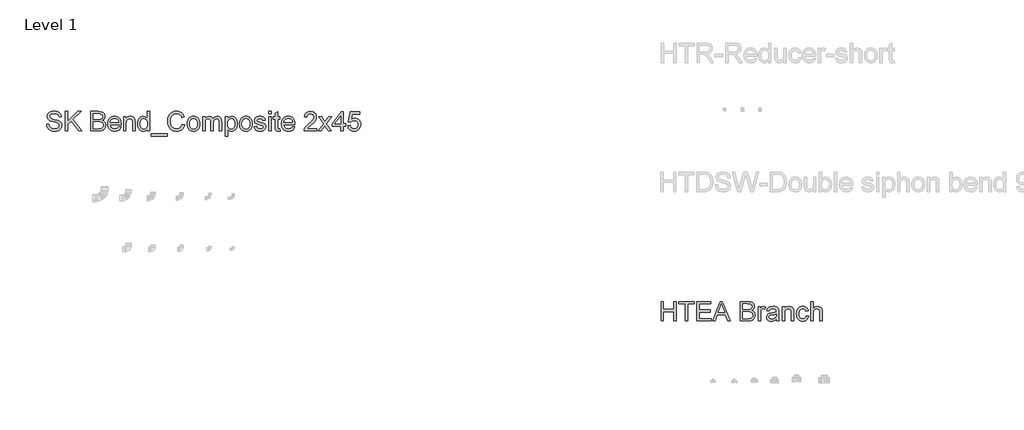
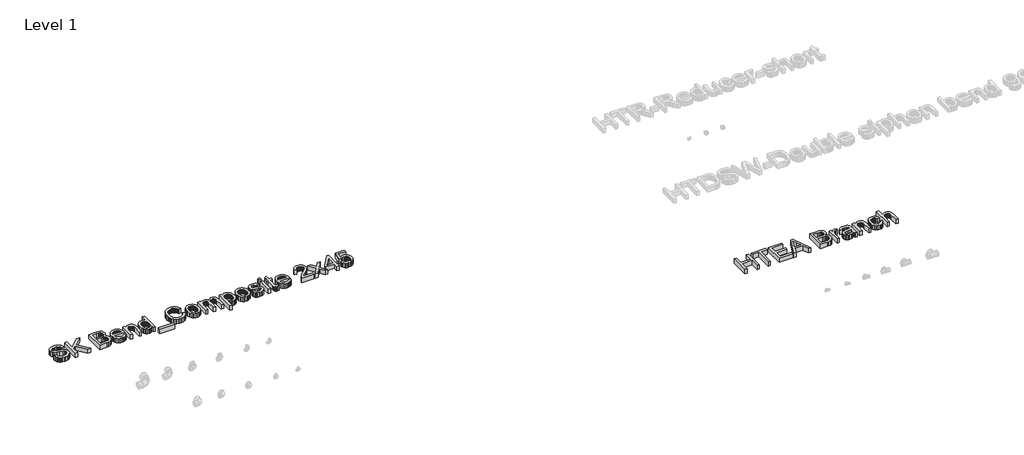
# One storey, part 7 of 29: 2 proxies.
"""IFC4 building model written with IfcOpenShell, lengths in millimetres."""

from ifc_helpers import new_model, si_unit, origin, origin_with_axes, place, context, project, spatial, polyline, outline, extrude, element, save

model = new_model("IFC4")

# Units and contexts
model_context = context("Model", 3, world=origin())
ifc_project = project(units=[si_unit("LENGTHUNIT", "METRE", prefix="MILLI")], contexts=[model_context])

# Site, building, storey
site = spatial("IfcSite", under=ifc_project)
building = spatial("IfcBuilding", under=site)
storey = spatial("IfcBuildingStorey", under=building, Name="Level 1", Elevation=0.0)

# Proxies
placement = place(None, origin())
element("IfcBuildingElementProxy", 1, Name="600mm Arial", ObjectType="600mm Arial", at=placement, inside=storey, context=model_context, shape_type="SweptSolid", body=[
    extrude(outline(polyline([(14791.5843771, -39213.6809145), (14791.5843771, -38610.9430536), (14866.9266098, -38610.9430536), (14866.9266098, -38855.8053096), (15187.1310984, -38855.8053096), (15187.1310984, -38610.9430536), (15262.473331, -38610.9430536), (15262.473331, -39213.6809145), (15187.1310984, -39213.6809145), (15187.1310984, -38931.1475422), (14866.9266098, -38931.1475422), (14866.9266098, -39213.6809145), (14791.5843771, -39213.6809145)])), origin_with_axes(), (0.0, 0.0, 1.0), 150.0),
    extrude(outline(polyline([(15545.0067033, -39213.6809145), (15545.0067033, -38686.2852862), (15347.2333427, -38686.2852862), (15347.2333427, -38610.9430536), (15818.1222965, -38610.9430536), (15818.1222965, -38686.2852862), (15620.3489359, -38686.2852862), (15620.3489359, -39213.6809145), (15545.0067033, -39213.6809145)])), origin_with_axes(), (0.0, 0.0, 1.0), 150.0),
    extrude(outline(polyline([(15902.8823082, -39213.6809145), (15902.8823082, -38610.9430536), (16336.1001457, -38610.9430536), (16336.1001457, -38686.2852862), (15978.2245408, -38686.2852862), (15978.2245408, -38865.2230887), (16317.2645875, -38865.2230887), (16317.2645875, -38940.5653213), (15978.2245408, -38940.5653213), (15978.2245408, -39138.3386819), (16345.5179248, -39138.3386819), (16345.5179248, -39213.6809145), (15902.8823082, -39213.6809145)])), origin_with_axes(), (0.0, 0.0, 1.0), 150.0),
    extrude(outline(polyline([(16388.339389, -39213.6809145), (16628.9342139, -38610.9430536), (16693.0928338, -38610.9430536), (16933.6876587, -39213.6809145), (16854.0779949, -39213.6809145), (16785.0633326, -39025.325333), (16536.8165623, -39025.325333), (16467.9490528, -39213.6809145), (16388.339389, -39213.6809145)]), holes=[polyline([(16564.4812883, -38949.9831003), (16757.5457594, -38949.9831003), (16703.2463769, -38801.8002327), (16661.0135238, -38686.2852862), (16623.4895603, -38788.8507865), (16564.4812883, -38949.9831003)])]), origin_with_axes(), (0.0, 0.0, 1.0), 150.0),
    extrude(outline(polyline([(17249.6247161, -39213.6809145), (17249.6247161, -38610.9430536), (17479.6245395, -38610.9430536), (17542.8818486, -38615.3760316), (17592.2700064, -38628.6749658), (17612.3471663, -38638.7319398), (17630.1250637, -38651.1709498), (17645.6036987, -38665.9919956), (17658.7830711, -38683.1950774), (17676.827683, -38720.8661938), (17682.8425536, -38760.3031436), (17677.7841762, -38796.5947025), (17662.6090439, -38830.7157575), (17637.2067921, -38860.5693814), (17601.4670563, -38884.0586468), (17624.2067621, -38893.7523374), (17644.1597618, -38906.3522957), (17661.3260554, -38921.8585218), (17675.7056429, -38940.2710157), (17687.0685981, -38961.0287573), (17695.1849946, -38983.5707265), (17700.0548325, -39007.8969234), (17701.6781118, -39034.007348), (17697.2451337, -39076.037866), (17683.9461996, -39115.0149634), (17664.098966, -39148.1611312), (17640.0210894, -39172.6988602), (17610.5353475, -39190.4675606), (17574.4645179, -39203.3066422), (17530.6313781, -39211.0873464), (17477.8587059, -39213.6809145), (17249.6247161, -39213.6809145)]), holes=[polyline([(17324.9669487, -39138.3386819), (17479.4773867, -39138.3386819), (17535.39545, -39135.3956259), (17561.3495247, -39128.8657205), (17582.7050745, -39118.9880889), (17600.0691047, -39104.8430262), (17614.0486205, -39085.5108274), (17623.2640645, -39061.8560151), (17626.3358792, -39034.743112), (17622.7306356, -39003.2524133), (17611.914905, -38976.1762984), (17593.0241645, -38955.0046896), (17565.1938916, -38941.2275089), (17525.7753358, -38933.6675339), (17472.1197468, -38931.1475422), (17324.9669487, -38931.1475422), (17324.9669487, -39138.3386819)]), polyline([(17324.9669487, -38855.8053096), (17462.5548149, -38855.8053096), (17510.6737799, -38854.1866288), (17542.9002427, -38849.3305865), (17571.0248212, -38838.1653679), (17591.2399368, -38821.4451312), (17603.435225, -38799.4273938), (17607.500321, -38772.3696731), (17603.7111365, -38746.1028986), (17592.3435828, -38723.2206385), (17573.9126949, -38705.3599677), (17548.9335074, -38694.1579609), (17510.6002035, -38688.2534549), (17452.1069663, -38686.2852862), (17324.9669487, -38686.2852862), (17324.9669487, -38855.8053096)])]), origin_with_axes(), (0.0, 0.0, 1.0), 150.0),
    extrude(outline(polyline([(17795.8559026, -39213.6809145), (17795.8559026, -38771.0452979), (17861.7803561, -38771.0452979), (17861.7803561, -38836.528293), (17886.1341442, -38798.5628711), (17908.5749459, -38776.1956458), (17931.089324, -38765.2695506), (17955.6638413, -38761.6275188), (17993.1878048, -38767.4400543), (18031.3003795, -38784.8776609), (18006.137251, -38852.4207952), (17979.6497473, -38840.8325124), (17953.1622437, -38836.9697514), (17930.6662597, -38840.6853596), (17910.5615086, -38851.832184), (17894.3195186, -38869.5640962), (17883.4118174, -38893.0349675), (17874.2515557, -38935.1206677), (17871.1981352, -38981.0323407), (17871.1981352, -39213.6809145), (17795.8559026, -39213.6809145)])), origin_with_axes(), (0.0, 0.0, 1.0), 150.0),
    extrude(outline(polyline([(18360.9226471, -39157.17424), (18324.9253939, -39188.0395394), (18287.8612829, -39208.236261), (18248.8841855, -39219.3830854), (18207.1479732, -39223.0986936), (18173.6017337, -39220.8638104), (18144.1849697, -39214.1591611), (18118.897681, -39202.9847455), (18097.7398678, -39187.3405636), (18081.0334267, -39168.2198969), (18069.1002545, -39146.6160268), (18061.9403511, -39122.5289531), (18059.5537167, -39095.958676), (18063.1589602, -39064.7254946), (18073.9746909, -39036.3617928), (18090.6581394, -39012.0815811), (18111.8665364, -38993.0988702), (18136.7905416, -38978.7514724), (18164.6208145, -38968.3772001), (18229.8095041, -38957.0464347), (18306.8439939, -38945.127058), (18360.4811887, -38931.1475422), (18360.9226471, -38914.3721232), (18355.735511, -38880.7477089), (18349.2515908, -38868.2949033), (18340.1741026, -38858.7483655), (18324.4839355, -38849.2202219), (18305.3724659, -38842.414405), (18256.8856189, -38836.9697514), (18212.0040155, -38840.5933891), (18180.6604695, -38851.464302), (18159.2865256, -38871.5690531), (18144.3137284, -38902.894205), (18068.9714958, -38893.4764259), (18082.0497007, -38852.2736424), (18101.5658405, -38819.9000269), (18129.3409312, -38795.1415686), (18167.1959885, -38776.784257), (18213.4939376, -38765.4167034), (18266.5977036, -38761.6275188), (18317.5309658, -38764.975245), (18357.9060148, -38775.0184234), (18388.3482499, -38790.1199793), (18409.4830705, -38808.6428378), (18423.4993745, -38831.543492), (18432.5860598, -38859.7784351), (18436.2648798, -38925.7028887), (18436.2648798, -39019.439221), (18440.0908525, -39150.3316349), (18445.7562352, -39182.6868564), (18455.1004379, -39213.6809145), (18379.7582053, -39213.6809145), (18367.6916759, -39187.4877164), (18360.9226471, -39157.17424)]), holes=[polyline([(18360.9226471, -39006.4897748), (18310.3020846, -39019.0345508), (18239.3744359, -39029.5927641), (18174.5536284, -39041.8064463), (18157.6862389, -39050.1573676), (18145.1966452, -39061.6720741), (18137.4711233, -39075.4676489), (18134.8959493, -39090.6611753), (18140.5061497, -39113.0651888), (18157.336751, -39131.4225004), (18185.0198711, -39143.6729708), (18223.1876281, -39147.756461), (18263.6546476, -39143.2499065), (18299.4127775, -39129.7302432), (18328.4018788, -39109.8094332), (18348.5618121, -39086.0994386), (18357.5013446, -39061.6720741), (18360.4811887, -39027.8269305), (18360.9226471, -39006.4897748)])]), origin_with_axes(), (0.0, 0.0, 1.0), 150.0),
    extrude(outline(polyline([(18539.8604496, -39213.6809145), (18539.8604496, -38771.0452979), (18615.2026822, -38771.0452979), (18615.2026822, -38832.8494731), (18641.3774862, -38801.6898681), (18672.8130027, -38779.4330074), (18709.5092317, -38766.078891), (18751.4661732, -38761.6275188), (18788.6038606, -38765.2143683), (18822.6145511, -38775.9749166), (18850.9782529, -38792.5663946), (18871.1749745, -38813.6460329), (18884.8785788, -38839.1586493), (18893.762929, -38869.0490614), (18897.7360545, -38941.8896965), (18897.7360545, -39213.6809145), (18822.3938219, -39213.6809145), (18822.3938219, -38952.0432395), (18820.2233181, -38913.0845362), (18813.7118068, -38885.383022), (18801.7004597, -38865.5357884), (18783.0304484, -38850.1399269), (18759.0997246, -38840.2622953), (18731.3062399, -38836.9697514), (18708.4285783, -38838.8183585), (18687.1787946, -38844.3641795), (18667.5568886, -38853.6072147), (18649.5628606, -38866.5474638), (18634.5302825, -38884.6564551), (18623.7927268, -38909.4057163), (18617.3501934, -38940.7952475), (18615.2026822, -38978.8250488), (18615.2026822, -39213.6809145), (18539.8604496, -39213.6809145)])), origin_with_axes(), (0.0, 0.0, 1.0), 150.0),
    extrude(outline(polyline([(19283.8649966, -39053.5786702), (19359.2072293, -39062.9964493), (19351.0126578, -39098.5476456), (19338.2011673, -39130.0061547), (19320.7727578, -39157.3719766), (19298.7274292, -39180.6451113), (19272.9940837, -39199.2185536), (19244.5016232, -39212.485298), (19213.2500477, -39220.4453447), (19179.2393572, -39223.0986936), (19136.9835115, -39219.396881), (19099.0962646, -39208.2914433), (19065.5776163, -39189.7823804), (19036.4275667, -39163.8696923), (19012.8325352, -39131.0408228), (18995.9789413, -39091.7832154), (18985.866785, -39046.0968701), (18982.4960662, -38993.981787), (18988.2534194, -38926.9352934), (18995.4501109, -38896.7643712), (19005.5254791, -38868.8283322), (19018.5485017, -38843.6881964), (19034.5881567, -38821.9049837), (19053.6444441, -38803.4786943), (19075.7173638, -38788.4093281), (19099.8090359, -38776.6922865), (19124.9215806, -38768.3229711), (19151.0549979, -38763.3013819), (19178.2092876, -38761.6275188), (19211.6359654, -38763.9267813), (19241.8712669, -38770.8245687), (19268.9151921, -38782.320881), (19292.7677409, -38798.4157183), (19313.0242433, -38818.7411986), (19329.2800289, -38842.9294398), (19341.5350979, -38870.9804419), (19349.7894502, -38902.894205), (19274.4472176, -38912.311984), (19260.7804014, -38879.4417278), (19239.498428, -38855.878886), (19211.7785197, -38841.6970351), (19178.7978988, -38836.9697514), (19153.1979105, -38839.296605), (19130.1087168, -38846.2771659), (19109.5303177, -38857.911434), (19091.4627132, -38874.1994093), (19076.7520319, -38895.518171), (19066.2444024, -38922.2447979), (19059.9398247, -38954.3792902), (19057.8382988, -38991.9216478), (19059.8938395, -39030.029624), (19066.0604614, -39062.5365968), (19076.3381646, -39089.4425662), (19090.7269492, -39110.7475322), (19108.4358687, -39126.9389386), (19128.673977, -39138.5042288), (19151.441274, -39145.4434029), (19176.7377596, -39147.756461), (19215.7516452, -39141.9807136), (19232.6236332, -39134.7610295), (19247.7389847, -39124.6534717), (19260.6746354, -39111.5476756), (19271.0075209, -39095.3332766), (19278.7376413, -39076.0102748), (19283.8649966, -39053.5786702)])), origin_with_axes(), (0.0, 0.0, 1.0), 150.0),
    extrude(outline(polyline([(19425.1316828, -39213.6809145), (19425.1316828, -38610.9430536), (19500.4739154, -38610.9430536), (19500.4739154, -38832.5551675), (19528.1478385, -38801.5243212), (19559.22467, -38779.359431), (19593.70441, -38766.0604969), (19631.5870585, -38761.6275188), (19677.0940613, -38766.4651671), (19716.1999174, -38780.9781118), (19746.9916404, -38804.0259188), (19767.5562439, -38834.4681539), (19779.1445267, -38876.2963367), (19783.0072877, -38933.501987), (19783.0072877, -39213.6809145), (19707.6650551, -39213.6809145), (19707.6650551, -38941.3010853), (19706.165936, -38915.8620453), (19701.6685786, -38894.1386135), (19694.1729829, -38876.1307898), (19683.679149, -38861.8385743), (19670.4353972, -38850.9584643), (19654.6900478, -38843.1869571), (19636.4431008, -38838.5240529), (19615.6945563, -38836.9697514), (19583.8543696, -38841.1636062), (19553.9639575, -38853.7451704), (19529.2054992, -38873.5004336), (19512.761174, -38899.215385), (19503.5457301, -38933.3916224), (19500.4739154, -38978.5307432), (19500.4739154, -39213.6809145), (19425.1316828, -39213.6809145)])), origin_with_axes(), (0.0, 0.0, 1.0), 150.0),
])
element("IfcBuildingElementProxy", 2, Name="600mm Arial", ObjectType="600mm Arial", at=placement, inside=storey, context=model_context, shape_type="SweptSolid", body=[
    extrude(outline(polyline([(-4223.9879318, -33125.4712801), (-4148.6456992, -33125.4712801), (-4140.0004723, -33167.2810688), (-4124.3654875, -33200.8870891), (-4099.9749112, -33227.5585337), (-4065.0629099, -33248.5645957), (-4022.3885985, -33262.1946236), (-3974.7110919, -33266.7379662), (-3932.7357562, -33263.2982696), (-3895.9843449, -33252.9791796), (-3866.2042974, -33236.645219), (-3845.1430532, -33215.1609105), (-3832.6166712, -33190.4944227), (-3828.4412106, -33164.6139244), (-3831.5682076, -33139.3956136), (-3840.9491984, -33117.5986054), (-3860.0054858, -33099.0021705), (-3892.1583722, -33083.3855798), (-4001.8607831, -33054.6172078), (-4073.8736837, -33035.5793145), (-4119.9509036, -33017.4611263), (-4157.456473, -32992.1140568), (-4184.0359471, -32961.3959102), (-4199.873267, -32925.9688741), (-4205.1523737, -32886.495136), (-4203.5198973, -32864.0589328), (-4198.6224682, -32842.3676907), (-4190.4600865, -32821.4214096), (-4179.032752, -32801.2200895), (-4164.4692235, -32782.5868665), (-4146.8982597, -32766.3448764), (-4126.3198606, -32752.4941193), (-4102.7340262, -32741.0345951), (-4049.7222307, -32725.6387336), (-3991.0450525, -32720.5067798), (-3927.4750437, -32725.8778569), (-3871.851286, -32741.9910883), (-3847.515892, -32753.9932384), (-3826.1603422, -32768.5153801), (-3807.7846366, -32785.5575136), (-3792.3887751, -32805.1196387), (-3780.0923194, -32826.6315383), (-3771.0148311, -32849.5229955), (-3765.1563104, -32873.7940101), (-3762.5167571, -32899.4445822), (-3837.8589897, -32899.4445822), (-3842.898973, -32875.4034938), (-3851.6913527, -32854.4894024), (-3864.2361287, -32836.702308), (-3880.5333011, -32822.0422104), (-3900.8863725, -32810.5826863), (-3925.5988455, -32802.3973119), (-3954.6707202, -32797.4860873), (-3988.1019965, -32795.8490124), (-4022.6001306, -32797.4676932), (-4052.0766755, -32802.3237355), (-4076.5316311, -32810.4171394), (-4095.9649975, -32821.7479049), (-4110.7722478, -32835.3687357), (-4121.3488552, -32850.3323359), (-4127.6948196, -32866.6387053), (-4129.810141, -32884.287844), (-4128.3110219, -32899.4721734), (-4123.8136645, -32913.2401571), (-4116.3180689, -32925.591795), (-4105.824235, -32936.5270873), (-4089.3063334, -32946.8829655), (-4063.2970763, -32957.3492083), (-3982.8044958, -32978.6127876), (-3899.7367413, -32998.8095091), (-3849.4840607, -33016.4310567), (-3806.5338378, -33043.7646889), (-3789.9285642, -33059.8319351), (-3776.5698493, -33077.4994679), (-3766.3013431, -33096.6753169), (-3758.9666958, -33117.2675116), (-3753.098978, -33162.700938), (-3754.7866366, -33186.2683783), (-3759.8496126, -33209.1460399), (-3768.2879059, -33231.3339227), (-3780.1015164, -33252.8320268), (-3795.0835107, -33272.8080191), (-3813.026955, -33290.4295667), (-3833.9318494, -33305.6966695), (-3857.7981938, -33318.6093275), (-3883.931611, -33328.8778337), (-3911.6377238, -33336.212481), (-3971.7680359, -33342.0801988), (-4010.3082734, -33340.4983062), (-4045.5835582, -33335.7526285), (-4077.5938904, -33327.8431656), (-4106.3392698, -33316.7699176), (-4131.9944404, -33302.5144902), (-4154.7341462, -33285.0584896), (-4174.5583872, -33264.4019155), (-4191.4671634, -33240.5447682), (-4205.0879943, -33214.2595996), (-4215.0483993, -33186.3189621), (-4221.3483785, -33156.7228556), (-4223.9879318, -33125.4712801)])), origin_with_axes(), (0.0, 0.0, 1.0), 150.0),
    extrude(outline(polyline([(-3640.0856291, -33332.6624198), (-3640.0856291, -32729.9245589), (-3564.7433965, -32729.9245589), (-3564.7433965, -33024.965919), (-3255.7225205, -32729.9245589), (-3150.3611171, -32729.9245589), (-3409.7915001, -32977.7298708), (-3140.943338, -33332.6624198), (-3233.0609896, -33332.6624198), (-3463.2079658, -33028.6447389), (-3564.7433965, -33125.4712801), (-3564.7433965, -33332.6624198), (-3640.0856291, -33332.6624198)])), origin_with_axes(), (0.0, 0.0, 1.0), 150.0),
    extrude(outline(polyline([(-2848.9921866, -33332.6624198), (-2848.9921866, -32729.9245589), (-2618.9923633, -32729.9245589), (-2555.7350542, -32734.3575369), (-2506.3468963, -32747.656471), (-2486.2697364, -32757.7134451), (-2468.491839, -32770.152455), (-2453.0132041, -32784.9735009), (-2439.8338316, -32802.1765827), (-2421.7892197, -32839.847699), (-2415.7743491, -32879.2846489), (-2420.8327265, -32915.5762077), (-2436.0078589, -32949.6972628), (-2461.4101106, -32979.5508867), (-2497.1498464, -33003.0401521), (-2474.4101406, -33012.7338426), (-2454.4571409, -33025.333801), (-2437.2908473, -33040.8400271), (-2422.9112598, -33059.2525209), (-2411.5483047, -33080.0102625), (-2403.4319082, -33102.5522318), (-2398.5620703, -33126.8784287), (-2396.938791, -33152.9888533), (-2401.371769, -33195.0193713), (-2414.6707031, -33233.9964686), (-2434.5179368, -33267.1426364), (-2458.5958134, -33291.6803655), (-2488.0815553, -33309.4490659), (-2524.1523849, -33322.2881475), (-2567.9855246, -33330.0688517), (-2620.7581968, -33332.6624198), (-2848.9921866, -33332.6624198)]), holes=[polyline([(-2773.649954, -32974.7868148), (-2636.0620878, -32974.7868148), (-2587.9431229, -32973.1681341), (-2555.7166601, -32968.3120917), (-2527.5920815, -32957.1468732), (-2507.3769659, -32940.4266365), (-2495.1816778, -32918.4088991), (-2491.1165817, -32891.3511783), (-2494.9057663, -32865.0844039), (-2506.2733199, -32842.2021438), (-2524.7042079, -32824.3414729), (-2549.6833954, -32813.1394662), (-2588.0166993, -32807.2349601), (-2646.5099365, -32805.2667915), (-2773.649954, -32805.2667915), (-2773.649954, -32974.7868148)]), polyline([(-2773.649954, -33257.3201871), (-2619.139516, -33257.3201871), (-2563.2214528, -33254.3771312), (-2537.267378, -33247.8472258), (-2515.9118282, -33237.9695942), (-2498.547798, -33223.8245315), (-2484.5682822, -33204.4923326), (-2475.3528382, -33180.8375203), (-2472.2810236, -33153.7246173), (-2475.8862671, -33122.2339185), (-2486.7019978, -33095.1578037), (-2505.5927382, -33073.9861948), (-2533.4230112, -33060.2090141), (-2572.841567, -33052.6490391), (-2626.497156, -33050.1290475), (-2773.649954, -33050.1290475), (-2773.649954, -33257.3201871)])]), origin_with_axes(), (0.0, 0.0, 1.0), 150.0),
    extrude(outline(polyline([(-1992.8572075, -33200.8135127), (-1918.9865028, -33210.2312918), (-1930.3126698, -33239.8182012), (-1945.6027652, -33265.8918376), (-1964.8567891, -33288.452201), (-1988.0747415, -33307.4992913), (-2015.0174991, -33322.6284383), (-2045.4459387, -33333.4349719), (-2079.3600601, -33339.9188921), (-2116.7598634, -33342.0801988), (-2163.508468, -33338.3507951), (-2205.1619069, -33327.1625839), (-2241.7201801, -33308.5155653), (-2273.1832878, -33282.4097392), (-2298.484372, -33249.5716726), (-2316.556575, -33210.7279325), (-2327.3998968, -33165.8785187), (-2331.0143374, -33115.0234314), (-2327.3631086, -33062.4438972), (-2316.4094222, -33016.0999629), (-2298.1532782, -32975.9916284), (-2272.5946766, -32942.1188937), (-2241.2143424, -32915.2083257), (-2205.4930007, -32895.9864915), (-2165.4306514, -32884.4533909), (-2121.0272946, -32880.6090241), (-2078.054079, -32884.4441939), (-2039.1919448, -32895.9497033), (-2004.4408918, -32915.1255523), (-1973.8009201, -32941.9717409), (-1948.789543, -32975.7708992), (-1930.9242736, -33015.8056573), (-1920.2051119, -33062.0760152), (-1916.6320581, -33114.581973), (-1917.0735165, -33134.8890591), (-2255.6721048, -33134.8890591), (-2251.3081046, -33164.9542152), (-2242.6306881, -33191.285369), (-2229.6398551, -33213.8825206), (-2212.3356058, -33232.7456699), (-2191.6744332, -33247.6172995), (-2168.6128307, -33258.2398921), (-2143.1507981, -33264.6134477), (-2115.2883355, -33266.7379662), (-2075.189198, -33262.8016289), (-2041.4176308, -33250.9926168), (-2013.973634, -33230.5751661), (-1992.8572075, -33200.8135127)]), holes=[polyline([(-2255.6721048, -33059.5468265), (-1991.9742907, -33059.5468265), (-2002.1646219, -33019.7419947), (-2010.9294105, -33004.0886158), (-2022.1406143, -32991.2679282), (-2042.6868237, -32975.8168844), (-2066.0657245, -32964.7804246), (-2092.2773167, -32958.1585487), (-2121.3216002, -32955.9512567), (-2147.8137024, -32957.7124917), (-2172.1077096, -32962.9961969), (-2194.2036219, -32971.8023722), (-2214.1014394, -32984.1310175), (-2230.7986834, -32999.4119159), (-2243.2928757, -33017.0748502), (-2251.5840161, -33037.1198204), (-2255.6721048, -33059.5468265)])]), origin_with_axes(), (0.0, 0.0, 1.0), 150.0),
    extrude(outline(polyline([(-1841.2898254, -33332.6624198), (-1841.2898254, -32890.0268032), (-1765.9475928, -32890.0268032), (-1765.9475928, -32951.8309783), (-1739.7727889, -32920.6713734), (-1708.3372724, -32898.4145126), (-1671.6410434, -32885.0603962), (-1629.6841018, -32880.6090241), (-1592.5464144, -32884.1958735), (-1558.535724, -32894.9564219), (-1530.1720221, -32911.5478999), (-1509.9753006, -32932.6275382), (-1496.2716963, -32958.1401546), (-1487.3873461, -32988.0305667), (-1483.4142205, -33060.8712017), (-1483.4142205, -33332.6624198), (-1558.7564532, -33332.6624198), (-1558.7564532, -33071.0247448), (-1560.9269569, -33032.0660415), (-1567.4384682, -33004.3645273), (-1579.4498154, -32984.5172936), (-1598.1198266, -32969.1214321), (-1622.0505504, -32959.2438005), (-1649.8440352, -32955.9512567), (-1672.7216967, -32957.7998637), (-1693.9714805, -32963.3456848), (-1713.5933864, -32972.5887199), (-1731.5874145, -32985.5289691), (-1746.6199925, -33003.6379603), (-1757.3575482, -33028.3872215), (-1763.8000817, -33059.7767528), (-1765.9475928, -33097.806554), (-1765.9475928, -33332.6624198), (-1841.2898254, -33332.6624198)])), origin_with_axes(), (0.0, 0.0, 1.0), 150.0),
    extrude(outline(polyline([(-1106.7030575, -33332.6624198), (-1106.7030575, -33261.5876183), (-1129.2450267, -33296.8031223), (-1156.5510678, -33321.9570537), (-1188.6211808, -33337.0494125), (-1225.4553655, -33342.0801988), (-1250.3241884, -33340.259183), (-1274.1629417, -33334.7961353), (-1296.9716254, -33325.6910559), (-1318.7502395, -33312.9439448), (-1338.8182023, -33296.9364795), (-1356.4949322, -33278.0503376), (-1371.7804291, -33256.285519), (-1384.674693, -33231.6420239), (-1394.9110095, -33204.5889017), (-1402.2226642, -33175.5952019), (-1408.0719879, -33111.7860698), (-1402.6825167, -33048.7678841), (-1386.514103, -32991.8565394), (-1374.3923913, -32966.5002729), (-1359.585141, -32944.2893974), (-1342.0923521, -32925.223913), (-1321.9140247, -32909.3038197), (-1299.76293, -32896.7498466), (-1276.3518396, -32887.782723), (-1251.6807533, -32882.4024488), (-1225.7496711, -32880.6090241), (-1188.8878952, -32885.7409779), (-1156.2935504, -32901.1368394), (-1128.6656126, -32924.7364694), (-1106.7030575, -32954.4797287), (-1106.7030575, -32729.9245589), (-1031.3608249, -32729.9245589), (-1031.3608249, -33332.6624198), (-1106.7030575, -33332.6624198)]), holes=[polyline([(-1332.7297553, -33111.4917643), (-1330.6052368, -33148.0270449), (-1324.2316812, -33179.6419039), (-1313.6090886, -33206.3363411), (-1298.737459, -33228.1103567), (-1280.9779556, -33245.0099359), (-1261.691742, -33257.0810638), (-1240.8788182, -33264.3237406), (-1218.539184, -33266.7379662), (-1196.0937838, -33264.4341052), (-1175.4050201, -33257.5225222), (-1156.4728929, -33246.0032173), (-1139.2974023, -33229.8761903), (-1125.0373764, -33209.0126826), (-1114.8516437, -33183.2839356), (-1108.740204, -33152.6899492), (-1106.7030575, -33117.2307234), (-1108.7769922, -33078.3547935), (-1114.9987965, -33045.0154877), (-1125.3684702, -33017.2128059), (-1139.8860134, -32994.9467482), (-1157.4385831, -32977.8862207), (-1176.9133363, -32965.7001296), (-1198.3102728, -32958.3884749), (-1221.6293928, -32955.9512567), (-1244.4104853, -32958.2919059), (-1265.2234092, -32965.3138535), (-1284.0681644, -32977.0170994), (-1300.9447509, -32993.4016438), (-1314.8506903, -33014.8261715), (-1324.7835042, -33041.6493675), (-1330.7431925, -33073.8712317), (-1332.7297553, -33111.4917643)])]), origin_with_axes(), (0.0, 0.0, 1.0), 150.0),
    extrude(outline(polyline([(-984.2719295, -33502.1824431), (-984.2719295, -33426.8402105), (-494.5474175, -33426.8402105), (-494.5474175, -33502.1824431), (-984.2719295, -33502.1824431)])), origin_with_axes(), (0.0, 0.0, 1.0), 150.0),
    extrude(outline(polyline([(-23.6584637, -33118.4079458), (51.6837689, -33137.8321151), (36.7753511, -33184.6864857), (16.9189204, -33225.6271533), (-7.8855231, -33260.6541177), (-37.6379795, -33289.7673791), (-71.667064, -33312.6542377), (-109.3013922, -33329.0019939), (-150.5409638, -33338.8106476), (-195.385779, -33342.0801988), (-241.3296417, -33339.6061924), (-282.776147, -33332.1841732), (-319.7252949, -33319.8141411), (-352.1770854, -33302.4960961), (-380.5775754, -33280.4875558), (-405.3728219, -33254.0460374), (-426.5628248, -33223.1715409), (-444.1475842, -33187.8640665), (-457.9569546, -33149.6503242), (-467.8207906, -33110.0570245), (-473.7390922, -33069.0841673), (-475.7118594, -33026.7317526), (-473.4815748, -32981.2891291), (-466.790721, -32938.8447439), (-455.639298, -32899.398597), (-440.0273058, -32862.9506883), (-420.3042324, -32830.1034247), (-396.8195655, -32801.4592128), (-369.5733052, -32777.0180528), (-338.5654515, -32756.7799445), (-304.8490667, -32740.9104349), (-269.4772129, -32729.575071), (-232.44989, -32722.7738526), (-193.7670982, -32720.5067798), (-150.674321, -32723.4406387), (-111.1591962, -32732.2422154), (-75.2217238, -32746.91151), (-42.8619038, -32767.4485224), (-14.6131651, -32793.3106266), (8.9910634, -32823.9551968), (27.9507817, -32859.382233), (42.2659899, -32899.591735), (-33.0762428, -32917.5443764), (-44.9404371, -32887.9160802), (-59.1958644, -32862.6012004), (-75.8425247, -32841.599737), (-94.8804179, -32824.91169), (-116.4199088, -32812.1967686), (-140.5713617, -32803.1146818), (-167.3347769, -32797.6654297), (-196.7101542, -32795.8490124), (-230.5093125, -32797.8631663), (-261.4205972, -32803.9056281), (-289.4440081, -32813.9763977), (-314.5795455, -32828.0754752), (-336.5099109, -32845.568264), (-354.9178062, -32865.8201679), (-369.8032315, -32888.8311867), (-381.1661866, -32914.6013204), (-395.5687667, -32969.7468315), (-400.3696267, -33026.5845998), (-394.6858499, -33096.1878733), (-387.5811289, -33127.4578428), (-377.6345194, -33156.3733677), (-364.6850732, -33182.3596321), (-348.5718418, -33204.8418205), (-329.2948253, -33223.819933), (-306.8540236, -33239.2939694), (-282.3392871, -33251.300718), (-256.8404663, -33259.876967), (-230.3575612, -33265.0227164), (-202.8905717, -33266.7379662), (-170.1352786, -33264.4019155), (-140.0011447, -33257.3937635), (-112.4881699, -33245.7135102), (-87.5963544, -33229.3611555), (-65.9143093, -33208.4102759), (-48.0306459, -33182.9344477), (-33.945364, -33152.933671), (-23.6584637, -33118.4079458)])), origin_with_axes(), (0.0, 0.0, 1.0), 150.0),
    extrude(outline(polyline([(127.0260015, -33111.3446115), (131.1002946, -33054.0193996), (143.3231739, -33004.6220447), (163.6946394, -32963.1525467), (192.2146911, -32929.6109058), (220.9278808, -32908.1725826), (252.6209147, -32892.8594945), (287.2937927, -32883.6716417), (324.946515, -32880.6090241), (366.5125819, -32884.3384278), (404.0963262, -32895.526639), (437.6977479, -32914.1736576), (467.3168471, -32940.2794837), (491.4912927, -32972.9612004), (508.7587538, -33011.3358911), (519.1192305, -33055.4035556), (522.5727228, -33105.1641939), (521.0460125, -33145.4932577), (516.4658816, -33181.2789787), (508.8323302, -33212.5213572), (498.1453583, -33239.220393), (484.538323, -33262.2819955), (468.1445816, -33282.6120743), (448.9641341, -33300.2106293), (426.9969804, -33315.0776604), (403.0984463, -33326.891271), (378.1238574, -33335.3295642), (352.0732136, -33340.3925402), (324.946515, -33342.0801988), (282.7734427, -33338.3645907), (244.8402105, -33327.2177662), (211.1468183, -33308.6397255), (181.693266, -33282.6304684), (157.7763378, -33249.6314534), (140.6928177, -33210.084139), (130.4427056, -33163.988525), (127.0260015, -33111.3446115)]), holes=[polyline([(202.3682342, -33111.1974587), (204.547935, -33147.7419364), (211.0870374, -33179.3843865), (221.9855416, -33206.124809), (237.2434473, -33227.9632039), (255.803094, -33244.9271624), (276.6068208, -33257.0442756), (299.6546278, -33264.3145436), (324.946515, -33266.7379662), (350.1096434, -33264.300748), (373.0654799, -33256.9890933), (393.8140244, -33244.8030023), (412.355277, -33227.7424747), (427.6131828, -33205.6879491), (438.5116869, -33178.5198638), (445.0507893, -33146.2382187), (447.2304901, -33108.8430139), (445.0369938, -33073.4573645), (438.4565046, -33042.6426489), (427.4890226, -33016.398867), (412.1345478, -32994.726019), (393.5243174, -32977.7620605), (372.7895684, -32965.6449473), (349.9303009, -32958.3746793), (324.946515, -32955.9512567), (299.6546278, -32958.3654823), (276.6068208, -32965.6081591), (255.803094, -32977.679287), (237.2434473, -32994.5788662), (221.9855416, -33016.3528818), (211.0870374, -33043.047319), (204.547935, -33074.662178), (202.3682342, -33111.1974587)])]), origin_with_axes(), (0.0, 0.0, 1.0), 150.0),
    extrude(outline(polyline([(607.3327344, -33332.6624198), (607.3327344, -32890.0268032), (682.6749671, -32890.0268032), (682.6749671, -32962.8674382), (705.336498, -32929.4085707), (734.472752, -32903.1969786), (769.0904477, -32886.2560127), (808.1963038, -32880.6090241), (850.0980631, -32886.3663773), (867.9311428, -32893.5630688), (883.6856892, -32903.638437), (908.7752413, -32931.2847689), (925.1827783, -32968.1649389), (952.6451692, -32929.8592262), (983.9703211, -32902.4980028), (1019.158234, -32886.0812688), (1058.2089077, -32880.6090241), (1088.3706328, -32882.8852939), (1114.8443409, -32889.7141035), (1137.630032, -32901.0954527), (1156.727706, -32917.0293416), (1171.8246634, -32937.6997112), (1182.6082044, -32963.2905025), (1189.078329, -32993.8017155), (1191.2350372, -33029.2333501), (1191.2350372, -33332.6624198), (1115.8928046, -33332.6624198), (1115.8928046, -33061.6069657), (1114.1453651, -33024.0278199), (1108.9030467, -32998.6991445), (1099.0805974, -32981.3535085), (1083.5927654, -32967.7234805), (1063.6719554, -32958.8943127), (1040.550572, -32955.9512567), (1019.1996207, -32957.8366519), (999.7340646, -32963.4928376), (982.1539038, -32972.9198137), (966.4591381, -32986.1175803), (953.5510786, -33003.4724134), (944.3310361, -33025.3705892), (938.7990106, -33051.8121076), (936.9550021, -33082.7969686), (936.9550021, -33332.6624198), (861.6127695, -33332.6624198), (861.6127695, -33053.2192562), (857.2533679, -33010.6185212), (851.8041158, -32993.8982845), (844.1751629, -32980.2314684), (834.0630066, -32969.6088758), (821.1641441, -32962.0213096), (805.4785756, -32957.4687699), (787.0063009, -32955.9512567), (757.9804115, -32959.9979586), (731.2353904, -32972.1380645), (709.1624707, -32992.0772686), (694.1528853, -33019.5212655), (685.5444466, -33057.597052), (682.6749671, -33109.4316251), (682.6749671, -33332.6624198), (607.3327344, -33332.6624198)])), origin_with_axes(), (0.0, 0.0, 1.0), 150.0),
    extrude(outline(polyline([(1304.2483861, -33502.1824431), (1304.2483861, -32890.0268032), (1379.5906187, -32890.0268032), (1379.5906187, -32963.8975078), (1404.165136, -32927.4587962), (1431.6827092, -32901.431145), (1463.7620192, -32885.8145543), (1502.0217467, -32880.6090241), (1528.2977182, -32882.43004), (1552.9734031, -32887.8930876), (1576.0488012, -32896.998167), (1597.5239127, -32909.7452781), (1616.9296879, -32925.8033272), (1633.7970774, -32944.8412204), (1648.1260811, -32966.8589578), (1659.916699, -32991.8565394), (1675.6988366, -33047.3699325), (1680.9595492, -33107.9600971), (1675.018255, -33172.3946286), (1667.5916372, -33202.0597129), (1657.1943723, -33230.0233431), (1643.9690146, -33255.5543536), (1628.0581183, -33277.9215789), (1609.4616834, -33297.125019), (1588.17971, -33313.164674), (1565.2560632, -33325.8152161), (1541.7346081, -33334.8513176), (1517.6153448, -33340.2729785), (1492.8982732, -33342.0801988), (1458.2621834, -33337.2425506), (1427.3417017, -33322.7296059), (1400.8725921, -33300.8222331), (1379.5906187, -33273.8013005), (1379.5906187, -33502.1824431), (1304.2483861, -33502.1824431)]), holes=[polyline([(1379.5906187, -33114.8762786), (1381.6277653, -33151.1862315), (1387.7392049, -33182.4194129), (1397.9249377, -33208.5758228), (1412.1849635, -33229.6554611), (1429.3512571, -33245.8790571), (1448.2557931, -33257.4673399), (1468.8985716, -33264.4203096), (1491.2795925, -33266.7379662), (1513.9825101, -33264.3375362), (1535.0023676, -33257.1362461), (1554.339165, -33245.134096), (1571.9929022, -33228.3310859), (1586.7035835, -33206.4880925), (1597.211213, -33179.3659924), (1603.5157907, -33146.9647856), (1605.6173166, -33109.2844723), (1603.5663744, -33073.2872191), (1597.4135481, -33042.10922), (1587.1588375, -33015.750475), (1572.8022426, -32994.2109842), (1555.5945623, -32977.4723534), (1536.7865953, -32965.5161886), (1516.3783416, -32958.3424897), (1494.3698012, -32955.9512567), (1472.4302387, -32958.494241), (1451.7874603, -32966.1231939), (1432.4414659, -32978.8381153), (1414.3922555, -32996.6390054), (1399.1665394, -33019.2867407), (1388.2910279, -33046.542198), (1381.765721, -33078.4053773), (1379.5906187, -33114.8762786)])]), origin_with_axes(), (0.0, 0.0, 1.0), 150.0),
    extrude(outline(polyline([(1746.8840027, -33111.3446115), (1750.9582958, -33054.0193996), (1763.1811751, -33004.6220447), (1783.5526406, -32963.1525467), (1812.0726923, -32929.6109058), (1840.785882, -32908.1725826), (1872.4789159, -32892.8594945), (1907.1517939, -32883.6716417), (1944.8045161, -32880.6090241), (1986.370583, -32884.3384278), (2023.9543274, -32895.526639), (2057.5557491, -32914.1736576), (2087.1748482, -32940.2794837), (2111.3492939, -32972.9612004), (2128.616755, -33011.3358911), (2138.9772317, -33055.4035556), (2142.4307239, -33105.1641939), (2140.9040136, -33145.4932577), (2136.3238828, -33181.2789787), (2128.6903314, -33212.5213572), (2118.0033594, -33239.220393), (2104.3963241, -33262.2819955), (2088.0025827, -33282.6120743), (2068.8221352, -33300.2106293), (2046.8549816, -33315.0776604), (2022.9564475, -33326.891271), (1997.9818585, -33335.3295642), (1971.9312147, -33340.3925402), (1944.8045161, -33342.0801988), (1902.6314439, -33338.3645907), (1864.6982117, -33327.2177662), (1831.0048194, -33308.6397255), (1801.5512672, -33282.6304684), (1777.634339, -33249.6314534), (1760.5508188, -33210.084139), (1750.3007067, -33163.988525), (1746.8840027, -33111.3446115)]), holes=[polyline([(1822.2262353, -33111.1974587), (1824.4059361, -33147.7419364), (1830.9450386, -33179.3843865), (1841.8435427, -33206.124809), (1857.1014485, -33227.9632039), (1875.6610951, -33244.9271624), (1896.4648219, -33257.0442756), (1919.5126289, -33264.3145436), (1944.8045161, -33266.7379662), (1969.9676446, -33264.300748), (1992.9234811, -33256.9890933), (2013.6720256, -33244.8030023), (2032.2132782, -33227.7424747), (2047.4711839, -33205.6879491), (2058.369688, -33178.5198638), (2064.9087905, -33146.2382187), (2067.0884913, -33108.8430139), (2064.8949949, -33073.4573645), (2058.3145057, -33042.6426489), (2047.3470237, -33016.398867), (2031.992549, -32994.726019), (2013.3823185, -32977.7620605), (1992.6475696, -32965.6449473), (1969.7883021, -32958.3746793), (1944.8045161, -32955.9512567), (1919.5126289, -32958.3654823), (1896.4648219, -32965.6081591), (1875.6610951, -32977.679287), (1857.1014485, -32994.5788662), (1841.8435427, -33016.3528818), (1830.9450386, -33043.047319), (1824.4059361, -33074.662178), (1822.2262353, -33111.1974587)])]), origin_with_axes(), (0.0, 0.0, 1.0), 150.0),
    extrude(outline(polyline([(2198.9373984, -33200.8135127), (2274.279631, -33191.3957336), (2278.8321707, -33208.5758228), (2286.1622194, -33223.6221964), (2296.2697773, -33236.5348544), (2309.1548441, -33247.3137969), (2324.8542083, -33255.811871), (2343.4046579, -33261.8819239), (2389.0588135, -33266.7379662), (2434.1611461, -33262.2865941), (2451.6907232, -33256.7223789), (2465.8725741, -33248.9324776), (2484.6345558, -33229.5818847), (2489.3250513, -33218.7477599), (2490.8885498, -33207.141083), (2489.3158542, -33196.9691458), (2484.5977676, -33187.9376428), (2465.7254213, -33173.2959394), (2437.5088723, -33163.7310076), (2388.1758967, -33151.8116309), (2319.4187518, -33131.9276091), (2274.7210894, -33114.949855), (2246.0078997, -33096.4269965), (2225.2041728, -33071.9076616), (2212.5674263, -33042.9553486), (2208.3551775, -33011.133556), (2211.7396918, -32981.9421197), (2221.8932349, -32954.9947635), (2237.8961017, -32931.3583453), (2258.8285872, -32912.0997229), (2279.632314, -32899.9780111), (2306.726823, -32889.806074), (2338.0519749, -32882.9082865), (2371.5476305, -32880.6090241), (2420.5863005, -32884.3062381), (2463.2238237, -32895.3978803), (2497.5104257, -32912.7986987), (2521.4963318, -32935.4234414), (2537.3888339, -32964.9459715), (2547.3952242, -33003.0401521), (2472.0529916, -33012.4579312), (2462.543242, -32988.7479366), (2443.726078, -32970.8872657), (2415.4175584, -32959.6852589), (2377.4337424, -32955.9512567), (2334.1708198, -32959.519712), (2305.3288714, -32970.2250781), (2289.1052754, -32985.6761219), (2283.6974101, -33003.4816105), (2285.9414902, -33015.0698933), (2292.6737308, -33025.4073774), (2304.1884372, -33034.6412155), (2320.7799152, -33042.0356436), (2385.6742991, -33058.0752986), (2496.2596269, -33093.5391229), (2525.4694573, -33110.4984829), (2547.6159534, -33133.7118368), (2561.5770751, -33163.252761), (2566.2307824, -33199.1948319), (2560.7677347, -33236.3509134), (2544.3785919, -33271.299703), (2517.6887531, -33301.3004797), (2481.3236179, -33323.6125227), (2437.3985077, -33337.4632798), (2388.0287439, -33342.0801988), (2347.478951, -33339.8545128), (2312.0611119, -33333.1774545), (2281.7752266, -33322.0490242), (2256.6212952, -33306.4692217), (2236.0750858, -33286.5116235), (2219.6123665, -33262.2498059), (2207.2331374, -33233.6837689), (2198.9373984, -33200.8135127)])), origin_with_axes(), (0.0, 0.0, 1.0), 150.0),
    extrude(outline(polyline([(2650.9907941, -33332.6624198), (2650.9907941, -32890.0268032), (2726.3330267, -32890.0268032), (2726.3330267, -33332.6624198), (2650.9907941, -33332.6624198)])), origin_with_axes(), (0.0, 0.0, 1.0), 150.0),
    extrude(outline(polyline([(2650.9907941, -32805.2667915), (2650.9907941, -32729.9245589), (2726.3330267, -32729.9245589), (2726.3330267, -32805.2667915), (2650.9907941, -32805.2667915)])), origin_with_axes(), (0.0, 0.0, 1.0), 150.0),
    extrude(outline(polyline([(2999.4486199, -33269.828175), (3008.866399, -33334.8697117), (2952.5068773, -33342.0801988), (2916.3440772, -33338.9532019), (2889.3783269, -33329.572211), (2870.3220396, -33315.1144486), (2857.8876281, -33296.757137), (2851.045023, -33265.22965), (2848.7641547, -33211.2613613), (2848.7641547, -32965.3690358), (2792.2574802, -32965.3690358), (2792.2574802, -32890.0268032), (2848.7641547, -32890.0268032), (2848.7641547, -32782.4581078), (2924.1063873, -32738.1651155), (2924.1063873, -32890.0268032), (2999.4486199, -32890.0268032), (2999.4486199, -32965.3690358), (2924.1063873, -32965.3690358), (2924.1063873, -33209.0540694), (2928.0795128, -33247.9024081), (2940.9553827, -33261.6611947), (2951.8262956, -33265.4687733), (2966.6335459, -33266.7379662), (2999.4486199, -33269.828175)])), origin_with_axes(), (0.0, 0.0, 1.0), 150.0),
    extrude(outline(polyline([(3384.6946452, -33200.8135127), (3458.5653499, -33210.2312918), (3447.2391829, -33239.8182012), (3431.9490875, -33265.8918376), (3412.6950636, -33288.452201), (3389.4771112, -33307.4992913), (3362.5343536, -33322.6284383), (3332.105914, -33333.4349719), (3298.1917926, -33339.9188921), (3260.7919893, -33342.0801988), (3214.0433847, -33338.3507951), (3172.3899458, -33327.1625839), (3135.8316725, -33308.5155653), (3104.3685649, -33282.4097392), (3079.0674807, -33249.5716726), (3060.9952777, -33210.7279325), (3050.1519559, -33165.8785187), (3046.5375153, -33115.0234314), (3050.1887441, -33062.4438972), (3061.1424305, -33016.0999629), (3079.3985745, -32975.9916284), (3104.9571761, -32942.1188937), (3136.3375103, -32915.2083257), (3172.058852, -32895.9864915), (3212.1212013, -32884.4533909), (3256.5245581, -32880.6090241), (3299.4977737, -32884.4441939), (3338.3599079, -32895.9497033), (3373.1109609, -32915.1255523), (3403.7509326, -32941.9717409), (3428.7623097, -32975.7708992), (3446.6275791, -33015.8056573), (3457.3467408, -33062.0760152), (3460.9197946, -33114.581973), (3460.4783362, -33134.8890591), (3121.8797479, -33134.8890591), (3126.243748, -33164.9542152), (3134.9211646, -33191.285369), (3147.9119976, -33213.8825206), (3165.2162469, -33232.7456699), (3185.8774195, -33247.6172995), (3208.939022, -33258.2398921), (3234.4010546, -33264.6134477), (3262.2635172, -33266.7379662), (3302.3626547, -33262.8016289), (3336.1342219, -33250.9926168), (3363.5782187, -33230.5751661), (3384.6946452, -33200.8135127)]), holes=[polyline([(3121.8797479, -33059.5468265), (3385.577562, -33059.5468265), (3375.3872308, -33019.7419947), (3366.6224422, -33004.0886158), (3355.4112384, -32991.2679282), (3334.865029, -32975.8168844), (3311.4861282, -32964.7804246), (3285.274536, -32958.1585487), (3256.2302525, -32955.9512567), (3229.7381503, -32957.7124917), (3205.4441431, -32962.9961969), (3183.3482308, -32971.8023722), (3163.4504133, -32984.1310175), (3146.7531693, -32999.4119159), (3134.258977, -33017.0748502), (3125.9678366, -33037.1198204), (3121.8797479, -33059.5468265)])]), origin_with_axes(), (0.0, 0.0, 1.0), 150.0),
    extrude(outline(polyline([(4138.9998881, -33257.3201871), (4138.9998881, -33332.6624198), (3743.4531669, -33332.6624198), (3745.1086359, -33306.1381279), (3751.5465708, -33280.717482), (3770.1246116, -33240.1217039), (3797.311091, -33200.7399363), (3836.6376763, -33159.5187587), (3891.6360346, -33113.4047506), (3972.9379555, -33041.189515), (4021.7191081, -32987.8834139), (4035.9469442, -32966.1047998), (4046.1096844, -32944.6204912), (4052.2073284, -32923.4304883), (4054.2398765, -32902.534791), (4052.3222916, -32882.8760969), (4046.5695369, -32864.8084924), (4036.9816124, -32848.3319775), (4023.5585181, -32833.4465523), (4007.045215, -32821.1179069), (3988.1866642, -32812.3117317), (3966.9828657, -32807.0280265), (3943.4338195, -32805.2667915), (3918.6247775, -32806.9866398), (3896.4368946, -32812.1461848), (3876.870171, -32820.7454264), (3859.9246066, -32832.7843647), (3846.2164038, -32847.8583295), (3836.3617648, -32865.5626505), (3830.3606898, -32885.8973278), (3828.2131786, -32908.8623613), (3752.870946, -32899.4445822), (3759.3502676, -32860.5502583), (3771.1362871, -32826.567159), (3788.2290043, -32797.4952843), (3810.6284193, -32773.3346343), (3837.8194972, -32754.3427263), (3869.2872034, -32740.7770777), (3905.0315377, -32732.6376886), (3945.0525003, -32729.9245589), (3985.4321478, -32732.9411912), (4021.3696202, -32741.9910883), (4052.8649175, -32757.0742501), (4079.9180397, -32778.1906766), (4101.6460701, -32803.7768694), (4117.1660917, -32832.2693299), (4126.4781047, -32863.6680582), (4129.5821091, -32897.9730543), (4126.2343829, -32934.0070957), (4116.1912044, -32969.4157377), (4098.3673218, -33005.431385), (4071.677483, -33043.2864423), (4029.1319303, -33088.4807455), (3963.7409056, -33146.5141302), (3877.0679076, -33218.9868832), (3843.0756112, -33257.3201871), (4138.9998881, -33257.3201871)])), origin_with_axes(), (0.0, 0.0, 1.0), 150.0),
    extrude(outline(polyline([(4186.0887835, -33332.6624198), (4347.0739446, -33110.1673891), (4195.5065626, -32890.0268032), (4286.1526862, -32890.0268032), (4359.2876269, -32995.9768178), (4393.427076, -33046.0087691), (4423.0047884, -33005.1002912), (4506.2932721, -32890.0268032), (4596.9393957, -32890.0268032), (4437.7200682, -33110.1673891), (4591.0532838, -33332.6624198), (4500.4071602, -33332.6624198), (4408.1423558, -33198.9005263), (4391.219784, -33174.4731618), (4276.7349071, -33332.6624198), (4186.0887835, -33332.6624198)])), origin_with_axes(), (0.0, 0.0, 1.0), 150.0),
    extrude(outline(polyline([(4883.0044352, -33332.6624198), (4883.0044352, -33191.3957336), (4609.888842, -33191.3957336), (4609.888842, -33116.053501), (4901.8399933, -32739.3423379), (4958.3466678, -32739.3423379), (4958.3466678, -33116.053501), (5033.6889004, -33116.053501), (5033.6889004, -33191.3957336), (4958.3466678, -33191.3957336), (4958.3466678, -33332.6624198), (4883.0044352, -33332.6624198)]), holes=[polyline([(4883.0044352, -33116.053501), (4883.0044352, -32883.2577744), (4702.5951048, -33116.053501), (4883.0044352, -33116.053501)])]), origin_with_axes(), (0.0, 0.0, 1.0), 150.0),
    extrude(outline(polyline([(5099.613354, -33172.5601755), (5174.9555866, -33163.1423964), (5180.5841811, -33187.3628272), (5188.7879496, -33208.3734877), (5199.566892, -33226.1743777), (5212.9210085, -33240.7654974), (5228.8227077, -33252.1284525), (5247.2443986, -33260.244849), (5268.1860812, -33265.1146869), (5291.6477554, -33266.7379662), (5320.3425511, -33264.4800905), (5345.6528323, -33257.7064632), (5367.5785992, -33246.4170845), (5386.1198518, -33230.6119543), (5400.8627228, -33211.0728218), (5411.3933449, -33188.5814363), (5417.7117181, -33163.1377978), (5419.8178426, -33134.7419063), (5417.8450754, -33107.9049148), (5411.9267738, -33084.0477674), (5402.0629378, -33063.1704642), (5388.2535674, -33045.2730051), (5370.4526773, -33030.9164103), (5348.6142824, -33020.6616996), (5322.7383826, -33014.5088733), (5292.8249778, -33012.4579312), (5256.2759016, -33015.7320809), (5226.6797951, -33025.5545302), (5203.0433769, -33040.6009038), (5184.3733656, -33059.5468265), (5109.031133, -33050.1290475), (5174.9555866, -32739.3423379), (5466.9067379, -32739.3423379), (5466.9067379, -32814.6845705), (5235.876845, -32814.6845705), (5203.6503822, -32980.6729268), (5230.2390534, -32961.6166394), (5257.4715181, -32948.0050056), (5285.3477763, -32939.8380253), (5313.8678279, -32937.1156985), (5350.5594584, -32940.4910158), (5384.2620477, -32950.6169678), (5414.9755958, -32967.4935543), (5442.7001027, -32991.1207754), (5465.6513406, -33020.0546944), (5482.045082, -33052.8513742), (5491.8813269, -33089.510815), (5495.1600752, -33130.0330168), (5492.2078222, -33169.0652965), (5483.3510631, -33205.3752494), (5468.5897981, -33238.9628756), (5447.924027, -33269.828175), (5416.6172692, -33301.4384354), (5380.0865871, -33324.0171929), (5338.3319806, -33337.5644473), (5291.3534498, -33342.0801988), (5252.4729215, -33339.1785296), (5217.3539865, -33330.4735219), (5185.9966449, -33315.9651757), (5158.4008968, -33295.653491), (5135.4404618, -33270.5501434), (5117.9890596, -33241.6668082), (5106.0466903, -33209.0034856), (5099.613354, -33172.5601755)])), origin_with_axes(), (0.0, 0.0, 1.0), 150.0),
])

save(model, "model.ifc")
